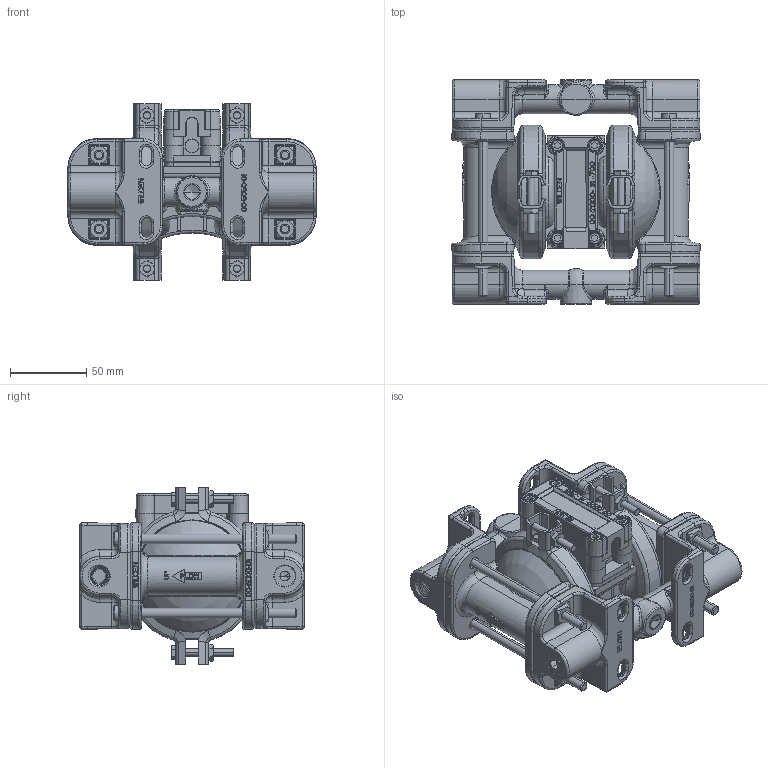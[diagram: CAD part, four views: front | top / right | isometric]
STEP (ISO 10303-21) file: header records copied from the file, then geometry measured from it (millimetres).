
FILE_DESCRIPTION((''),'2;1');
FILE_NAME('P025_METAL','2009-05-01T',('Roy'),(''),'PRO/ENGINEER BY PARAMETRIC TECHNOLOGY CORPORATION, 2008400','PRO/ENGINEER BY PARAMETRIC TECHNOLOGY CORPORATION, 2008400','');
FILE_SCHEMA(('CONFIG_CONTROL_DESIGN'));
Products named in the file (1): P025_METAL
Bounding box: 163.01 x 147.32 x 115.9 mm (x, y, z)
Volume: 695481.5 mm3; surface area: 237018.6 mm2
Topology: 5 solids, 5 shells, 5313 faces, 13767 edges, 8673 vertices
Faces by surface type: plane 3245, cylinder 845, bspline 460, cone 413, torus 264, sphere 86
Entity records: 258140 total; most frequent: CARTESIAN_POINT 132542, ORIENTED_EDGE 27438, DIRECTION 23868, EDGE_CURVE 13719, VECTOR 9234, LINE 9234, VERTEX_POINT 8673, AXIS2_PLACEMENT_3D 7317
